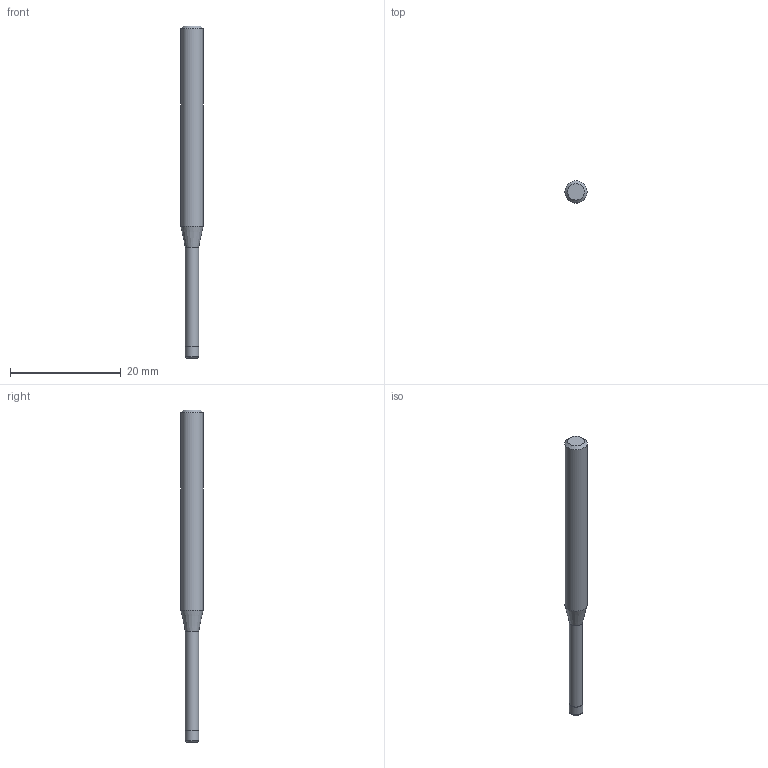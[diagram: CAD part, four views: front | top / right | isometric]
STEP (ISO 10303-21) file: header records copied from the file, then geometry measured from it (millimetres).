
FILE_DESCRIPTION((''),'2;1');
FILE_NAME('C:\Users\nsx150\AppData\Local\Temp\Mastercam 2021\17T8Q8S9EB\TEMP.step','2021-04-21T14:38:43',(''),(''),'STEP Write','Mastercam 2021 ... CNC Software, Inc.','');
FILE_SCHEMA(('AUTOMOTIVE_DESIGN'));
Length unit declared in the file: millimetre
Products named in the file (1): None
Bounding box: 4 x 4 x 60 mm (x, y, z)
Volume: 575.1 mm3; surface area: 666.6 mm2
Topology: 2 solids, 2 shells, 10 faces, 14 edges, 8 vertices
Faces by surface type: plane 4, cylinder 3, cone 2, torus 1
Full cylindrical faces by diameter (mm): 2.39 x1, 2.5 x1, 4 x1
Entity records: 232 total; most frequent: DIRECTION 40, CARTESIAN_POINT 28, AXIS2_PLACEMENT_3D 20, ORIENTED_EDGE 16, EDGE_LOOP 16, STYLED_ITEM 13, ADVANCED_FACE 10, FACE_BOUND 10
